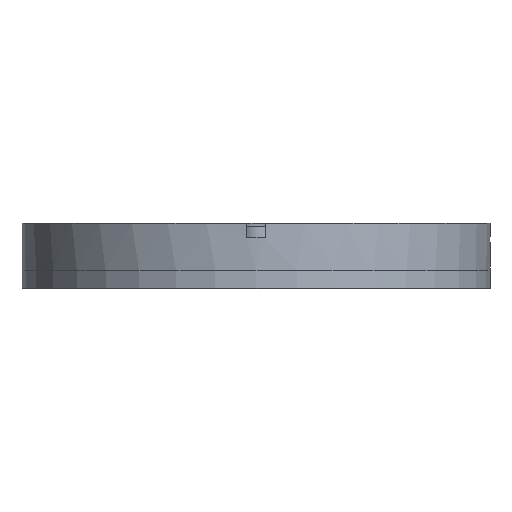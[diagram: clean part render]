
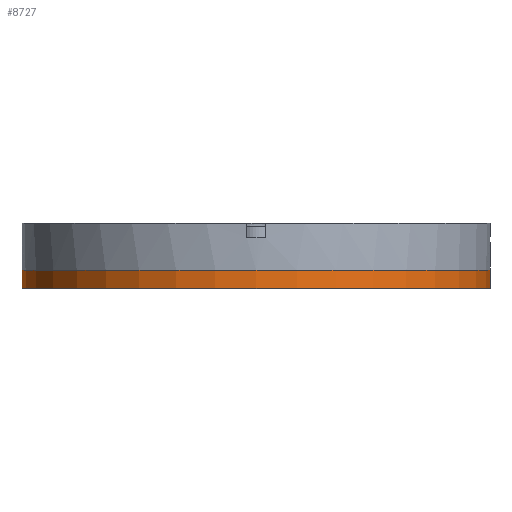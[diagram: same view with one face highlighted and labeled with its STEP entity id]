
A CAD part, front view. The second image highlights one B-rep face of the part: STEP entity #8727.
In plain terms, the highlighted cylindrical face has radius 100 mm (diameter 200 mm), a full revolution.
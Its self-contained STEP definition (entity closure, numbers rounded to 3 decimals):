
#8330 = EDGE_CURVE('',#8331,#8331,#8333,.T.);
#8331 = VERTEX_POINT('',#8332);
#8332 = CARTESIAN_POINT('',(100.,0.,8.));
#8333 = CIRCLE('',#8334,100.);
#8334 = AXIS2_PLACEMENT_3D('',#8335,#8336,#8337);
#8335 = CARTESIAN_POINT('',(0.,0.,8.));
#8336 = DIRECTION('',(0.,0.,1.));
#8337 = DIRECTION('',(1.,0.,0.));
#8512 = VERTEX_POINT('',#8513);
#8513 = CARTESIAN_POINT('',(100.,0.,0.3));
#8519 = EDGE_CURVE('',#8512,#8512,#8520,.T.);
#8520 = CIRCLE('',#8521,100.);
#8521 = AXIS2_PLACEMENT_3D('',#8522,#8523,#8524);
#8522 = CARTESIAN_POINT('',(0.,0.,0.3));
#8523 = DIRECTION('',(0.,0.,1.));
#8524 = DIRECTION('',(1.,0.,0.));
#8727 = ADVANCED_FACE('',(#8728),#8739,.T.);
#8728 = FACE_BOUND('',#8729,.F.);
#8729 = EDGE_LOOP('',(#8730,#8736,#8737,#8738));
#8730 = ORIENTED_EDGE('',*,*,#8731,.T.);
#8731 = EDGE_CURVE('',#8512,#8331,#8732,.T.);
#8732 = LINE('',#8733,#8734);
#8733 = CARTESIAN_POINT('',(100.,0.,0.));
#8734 = VECTOR('',#8735,1.);
#8735 = DIRECTION('',(0.,0.,1.));
#8736 = ORIENTED_EDGE('',*,*,#8330,.T.);
#8737 = ORIENTED_EDGE('',*,*,#8731,.F.);
#8738 = ORIENTED_EDGE('',*,*,#8519,.F.);
#8739 = CYLINDRICAL_SURFACE('',#8740,100.);
#8740 = AXIS2_PLACEMENT_3D('',#8741,#8742,#8743);
#8741 = CARTESIAN_POINT('',(0.,0.,0.));
#8742 = DIRECTION('',(-0.,-0.,-1.));
#8743 = DIRECTION('',(1.,0.,0.));
